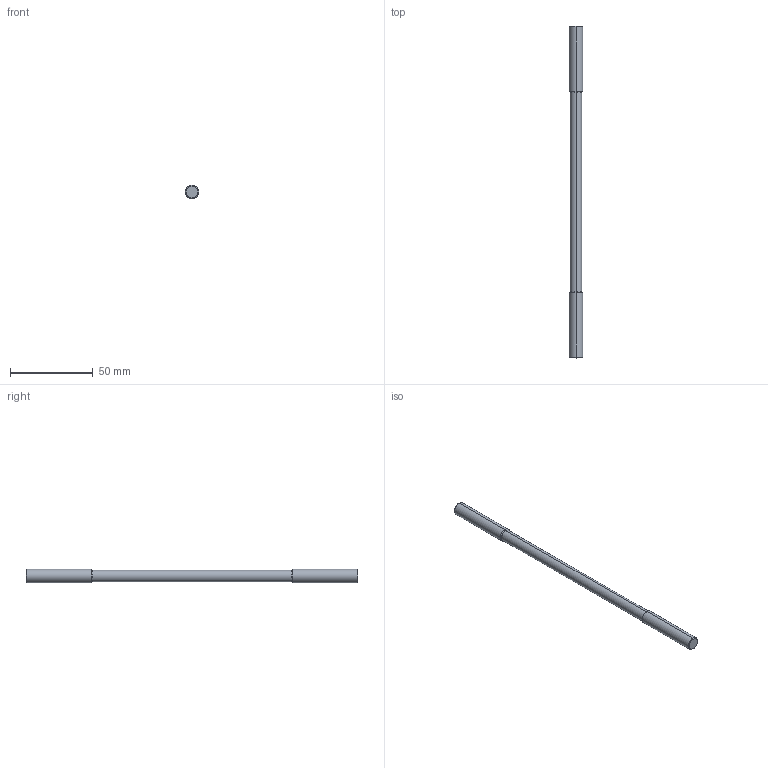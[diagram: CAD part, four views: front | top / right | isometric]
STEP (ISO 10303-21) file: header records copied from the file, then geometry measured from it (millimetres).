
FILE_DESCRIPTION (( 'STEP AP214' ), '1' );
FILE_NAME ('DB-54-200.STEP', '2016-01-18T14:51:13', ( '' ), ( '' ), 'SwSTEP 2.0', 'SolidWorks 2012', '' );
FILE_SCHEMA (( 'AUTOMOTIVE_DESIGN' ));
Length unit declared in the file: millimetre
Products named in the file (1): DB-54-200
Bounding box: 8 x 200 x 8 mm (x, y, z)
Volume: 8627.3 mm3; surface area: 4742.9 mm2
Topology: 1 solids, 1 shells, 16 faces, 30 edges, 16 vertices
Faces by surface type: cone 8, cylinder 6, plane 2
Entity records: 428 total; most frequent: DIRECTION 80, CARTESIAN_POINT 63, ORIENTED_EDGE 60, AXIS2_PLACEMENT_3D 33, EDGE_CURVE 30, ADVANCED_FACE 16, EDGE_LOOP 16, FACE_OUTER_BOUND 16
